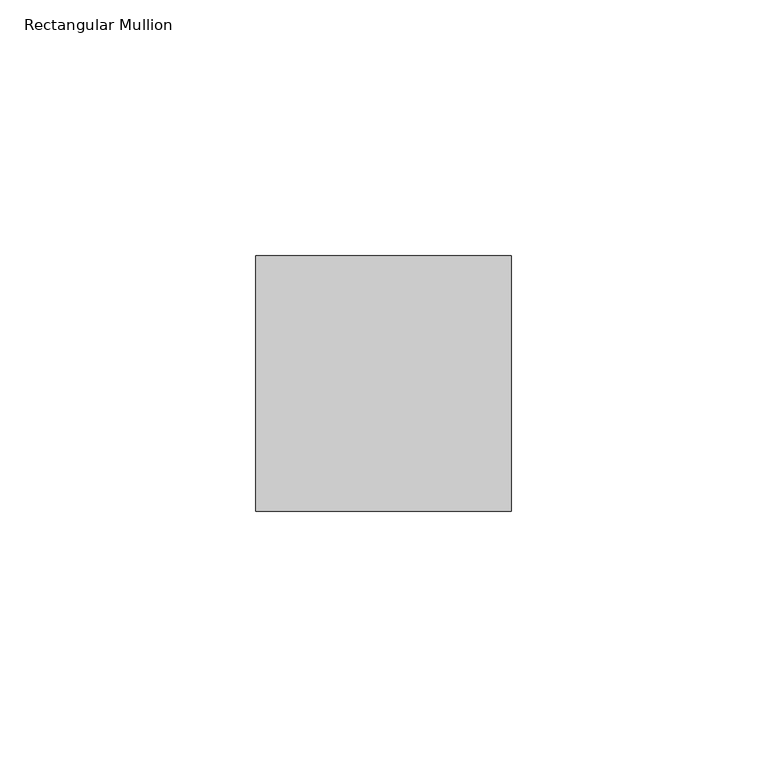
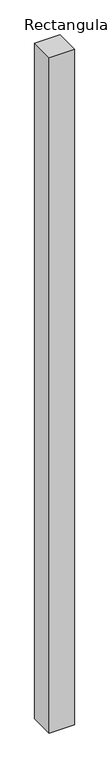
"""IFC4 building model written with IfcOpenShell, lengths in millimetres: member geometry, Rectangular Mullion : Mullion_Curtain Wall_Generic Showcase_50x50mm."""

from ifc_helpers import new_model, si_unit, frame, origin, place, context, project, spatial, polyline, outline, extrude, source, transform, mapped, element, save


def rectangular_mullion_aa7ad885(model_context):
    return source(origin(), model_context, "Body", "SweptSolid", [
        extrude(outline(polyline([(25.0, 0.0), (25.0, -50.0), (-25.0, -50.0), (-25.0, 0.0), (25.0, 0.0)])), frame((0.0, 0.0, -1419.45347), z_axis=(0.0, 0.0, 1.0), x_axis=(1.0, 0.0, 0.0)), (0.0, 0.0, 1.0), 1419.45347),
    ])


if __name__ == "__main__":
    model = new_model("IFC4")
    model_context = context("Model", 3, world=origin())
    ifc_project = project(units=[si_unit("LENGTHUNIT", "METRE", prefix="MILLI")], contexts=[model_context])
    site = spatial("IfcSite", under=ifc_project)
    building = spatial("IfcBuilding", under=site)
    placement = place(None, origin())
    rectangular_mullion_shape = rectangular_mullion_aa7ad885(model_context)
    element("IfcMember", 1, ObjectType="Rectangular Mullion : Mullion_Curtain Wall_Generic Showcase_50x50mm", at=placement, inside=building, context=model_context, shape_type="MappedRepresentation", body=[
        mapped(rectangular_mullion_shape, transform((0.0, 0.0, 0.0), x_axis=(1.0, 0.0, 0.0), y_axis=(0.0, 1.0, 0.0), z_axis=(0.0, 0.0, 1.0))),
    ])
    save(model, "model.ifc")
